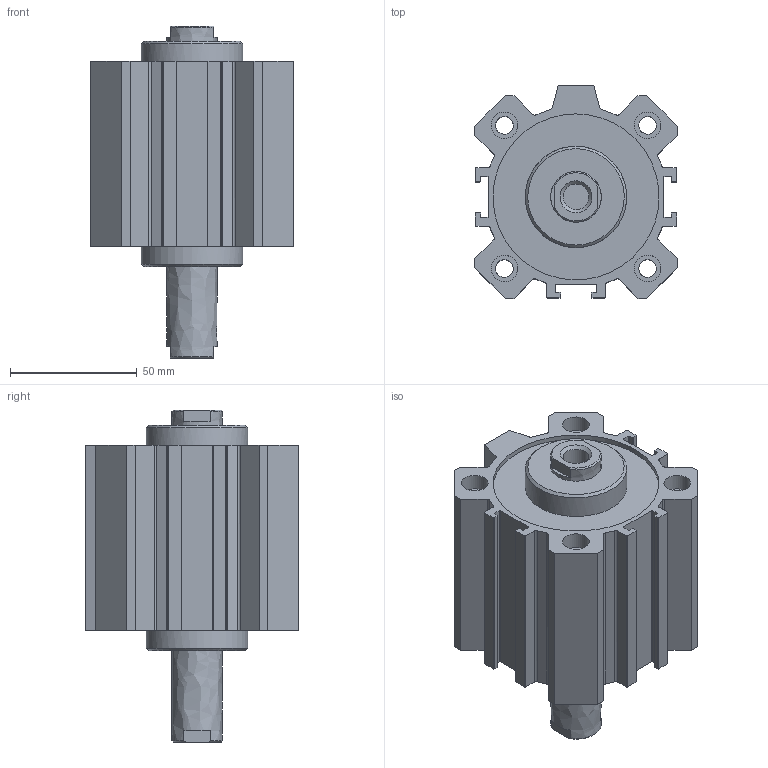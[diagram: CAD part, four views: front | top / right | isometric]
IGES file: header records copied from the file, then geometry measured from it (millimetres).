
Global section: file name: 1514_63_0030; native system: Autodesk Inventor 2014; preprocessor: unknown; author: A. Manieri; date: 20160824.140238; units: millimetre
Bounding box: 80 x 84 x 131 mm (x, y, z)
Volume: 314090.7 mm3; surface area: 85564.3 mm2
Topology: 2 solids, 2 shells, 178 faces, 482 edges, 328 vertices
Faces by surface type: bspline 178
